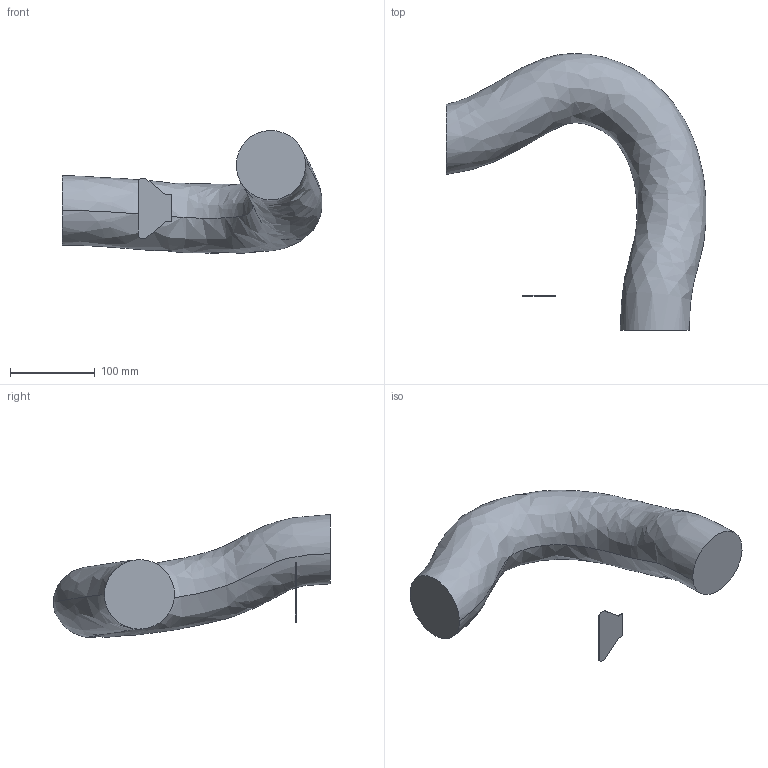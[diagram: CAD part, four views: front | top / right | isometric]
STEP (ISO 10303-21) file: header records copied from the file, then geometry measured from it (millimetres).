
FILE_DESCRIPTION (( 'STEP AP214' ), '1' );
FILE_NAME ('IRB6700-SW6_145-320_IRC5_rev01_LINK05_CABLE.STEP', '2016-01-27T12:19:31', ( 'ABB' ), ( 'ABB' ), 'SwSTEP 2.0', 'SolidWorks 2014', '' );
FILE_SCHEMA (( 'AUTOMOTIVE_DESIGN' ));
Length unit declared in the file: millimetre
Products named in the file (1): IRB6700-SW6_145-320_IRC5_rev01_LINK05_CABLE
Bounding box: 307.13 x 327.23 x 145.28 mm (x, y, z)
Volume: 2774557.2 mm3; surface area: 150152.7 mm2
Topology: 2 solids, 2 shells, 16 faces, 36 edges, 24 vertices
Faces by surface type: plane 14, bspline 2
Entity records: 966 total; most frequent: CARTESIAN_POINT 574, ORIENTED_EDGE 72, DIRECTION 64, EDGE_CURVE 36, VECTOR 30, LINE 30, VERTEX_POINT 24, AXIS2_PLACEMENT_3D 17
